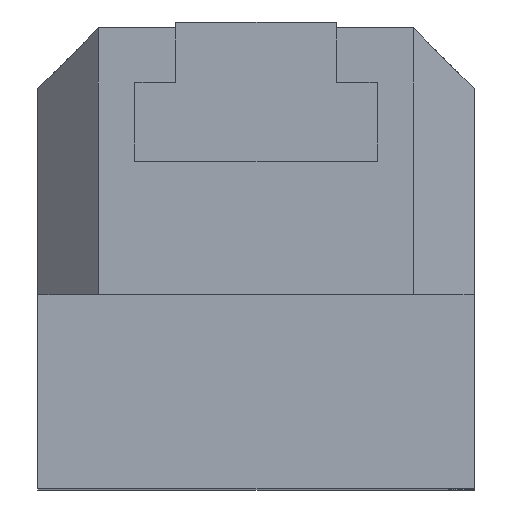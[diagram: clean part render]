
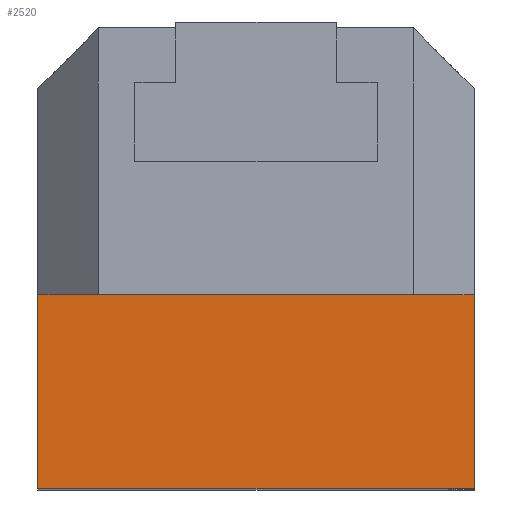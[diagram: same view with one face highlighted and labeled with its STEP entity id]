
A CAD part, top view. The second image highlights one B-rep face of the part: STEP entity #2520.
In plain terms, the highlighted planar face has unit normal (0, 0, 1).
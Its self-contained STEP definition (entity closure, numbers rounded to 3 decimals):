
#352 = VERTEX_POINT ( 'NONE', #1902 ) ;
#963 = VERTEX_POINT ( 'NONE', #3347 ) ;
#1059 = VERTEX_POINT ( 'NONE', #3798 ) ;
#1100 = EDGE_CURVE ( 'NONE', #1059, #352, #3664, .T. ) ;
#1143 = VERTEX_POINT ( 'NONE', #3626 ) ;
#1222 = EDGE_CURVE ( 'NONE', #1143, #352, #4053, .T. ) ;
#1902 = CARTESIAN_POINT ( 'NONE',  ( 36., 0., 62.5 ) ) ;
#2270 = EDGE_CURVE ( 'NONE', #963, #1143, #4145, .T. ) ;
#2519 = EDGE_LOOP ( 'NONE', ( #2542, #2522, #2524, #2545 ) ) ;
#2520 = ADVANCED_FACE ( 'NONE', ( #5508 ), #5501, .F. ) ;
#2522 = ORIENTED_EDGE ( 'NONE', *, *, #2270, .T. ) ;
#2523 = EDGE_CURVE ( 'NONE', #1059, #963, #5401, .T. ) ;
#2524 = ORIENTED_EDGE ( 'NONE', *, *, #1222, .T. ) ;
#2542 = ORIENTED_EDGE ( 'NONE', *, *, #2523, .T. ) ;
#2545 = ORIENTED_EDGE ( 'NONE', *, *, #1100, .F. ) ;
#3347 = CARTESIAN_POINT ( 'NONE',  ( -36., 32., 62.5 ) ) ;
#3626 = CARTESIAN_POINT ( 'NONE',  ( -36., 0., 62.5 ) ) ;
#3661 = DIRECTION ( 'NONE',  ( 0., -1., 0. ) ) ;
#3662 = VECTOR ( 'NONE', #3661, 1000. ) ;
#3663 = CARTESIAN_POINT ( 'NONE',  ( 36., 155.412, 62.5 ) ) ;
#3664 = LINE ( 'NONE', #3663, #3662 ) ;
#3798 = CARTESIAN_POINT ( 'NONE',  ( 36., 32., 62.5 ) ) ;
#3944 = DIRECTION ( 'NONE',  ( 1., 0., 0. ) ) ;
#3945 = VECTOR ( 'NONE', #3944, 1000. ) ;
#4052 = CARTESIAN_POINT ( 'NONE',  ( 36., 0., 62.5 ) ) ;
#4053 = LINE ( 'NONE', #4052, #3945 ) ;
#4145 = LINE ( 'NONE', #4215, #4214 ) ;
#4213 = DIRECTION ( 'NONE',  ( 0., -1., 0. ) ) ;
#4214 = VECTOR ( 'NONE', #4213, 1000. ) ;
#4215 = CARTESIAN_POINT ( 'NONE',  ( -36., 155.412, 62.5 ) ) ;
#5397 = DIRECTION ( 'NONE',  ( -1., 0., 0. ) ) ;
#5398 = VECTOR ( 'NONE', #5397, 1000. ) ;
#5399 = DIRECTION ( 'NONE',  ( -1., 0., 0. ) ) ;
#5400 = CARTESIAN_POINT ( 'NONE',  ( 36., 32., 62.5 ) ) ;
#5401 = LINE ( 'NONE', #5400, #5398 ) ;
#5403 = AXIS2_PLACEMENT_3D ( 'NONE', #5496, #5497, #5399 ) ;
#5496 = CARTESIAN_POINT ( 'NONE',  ( 36., 155.412, 62.5 ) ) ;
#5497 = DIRECTION ( 'NONE',  ( 0., 0., -1. ) ) ;
#5501 = PLANE ( 'NONE',  #5403 ) ;
#5508 = FACE_OUTER_BOUND ( 'NONE', #2519, .T. ) ;
